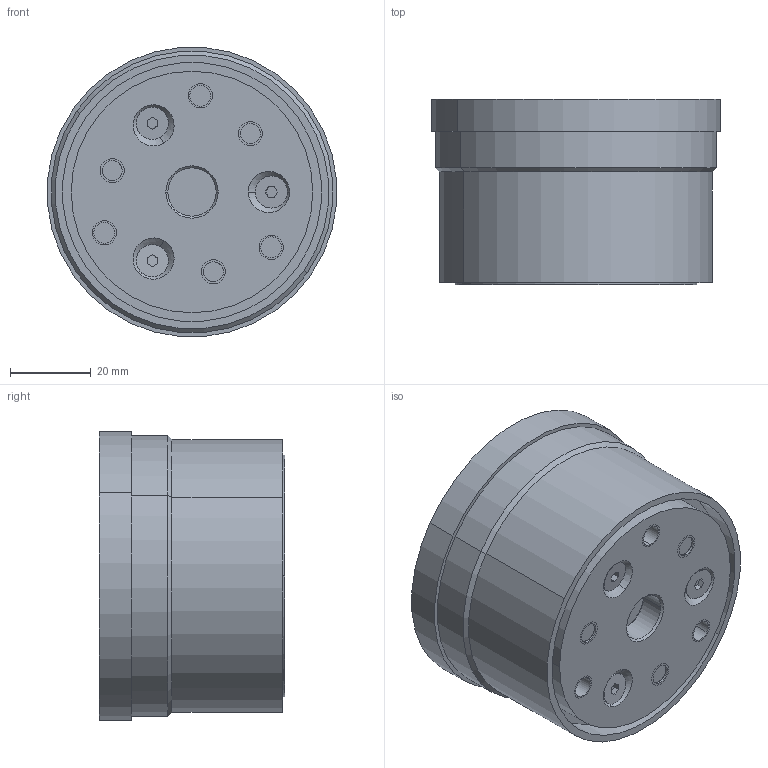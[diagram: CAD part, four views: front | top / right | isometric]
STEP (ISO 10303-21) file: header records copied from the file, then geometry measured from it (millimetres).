
FILE_DESCRIPTION((''),'2;1');
FILE_NAME('BS6-060-060','2018-02-27T',('CSW'),(''),'CREO PARAMETRIC BY PTC INC, 2016260','CREO PARAMETRIC BY PTC INC, 2016260','');
FILE_SCHEMA(('AUTOMOTIVE_DESIGN { 1 0 10303 214 1 1 1 1 }'));
Length unit declared in the file: millimetre
Products named in the file (1): BS6-060-060
Bounding box: 71.73 x 46 x 71.73 mm (x, y, z)
Volume: 166107.9 mm3; surface area: 26926.2 mm2
Topology: 1 solids, 47 shells, 484 faces, 1070 edges, 666 vertices
Faces by surface type: plane 198, cylinder 196, cone 74, torus 16
Entity records: 13630 total; most frequent: CARTESIAN_POINT 2520, DIRECTION 2502, ORIENTED_EDGE 2000, EDGE_CURVE 1054, AXIS2_PLACEMENT_3D 991, VERTEX_POINT 666, EDGE_LOOP 562, VECTOR 520
